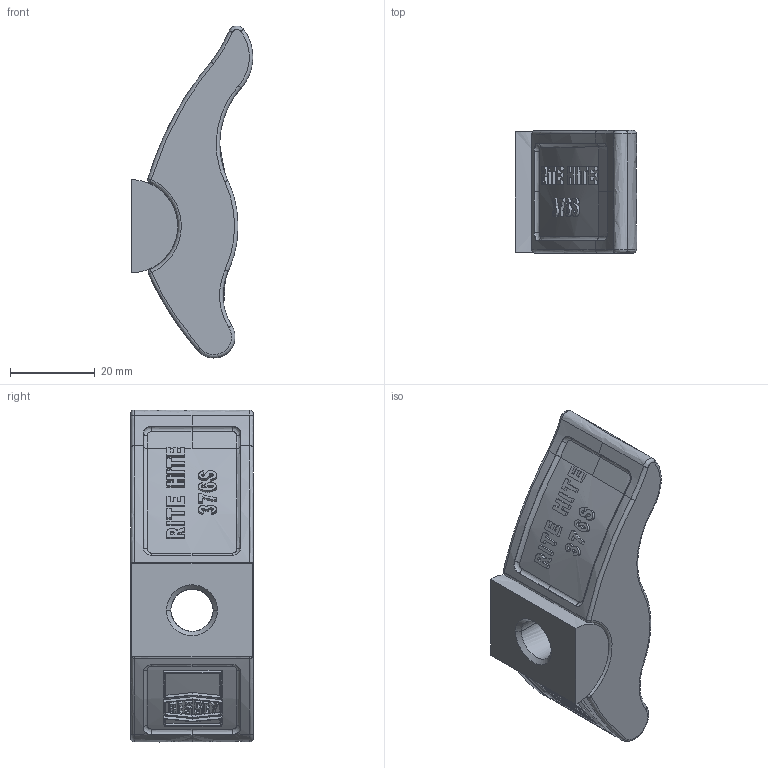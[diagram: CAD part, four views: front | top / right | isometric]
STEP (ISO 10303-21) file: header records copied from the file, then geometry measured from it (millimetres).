
FILE_DESCRIPTION( ( 'STEP AP214' ), '1' );
FILE_NAME( 'Z:/Klein/11_2012/Rite Hite_Drew/376S.stp', ' ', ( ' ' ), ( ' ' ), 'PSStep 11.0', ' ', ' ' );
FILE_SCHEMA( ( 'AUTOMOTIVE_DESIGN { 1 0 10303 214 1 1 1 1 }' ) );
Length unit declared in the file: metre
Products named in the file (2): 1; 2
Bounding box: 28.75 x 29 x 78.54 mm (x, y, z)
Volume: 28524.3 mm3; surface area: 10738.4 mm2
Topology: 2 solids, 2 shells, 409 faces, 1081 edges, 701 vertices
Faces by surface type: bspline 409
Entity records: 23597 total; most frequent: CARTESIAN_POINT 13974, ORIENTED_EDGE 2158, EDGE_CURVE 1079, B_SPLINE_CURVE_WITH_KNOTS 806, VERTEX_POINT 701, EDGE_LOOP 440, STYLED_ITEM 409, PRESENTATION_STYLE_ASSIGNMENT 409
